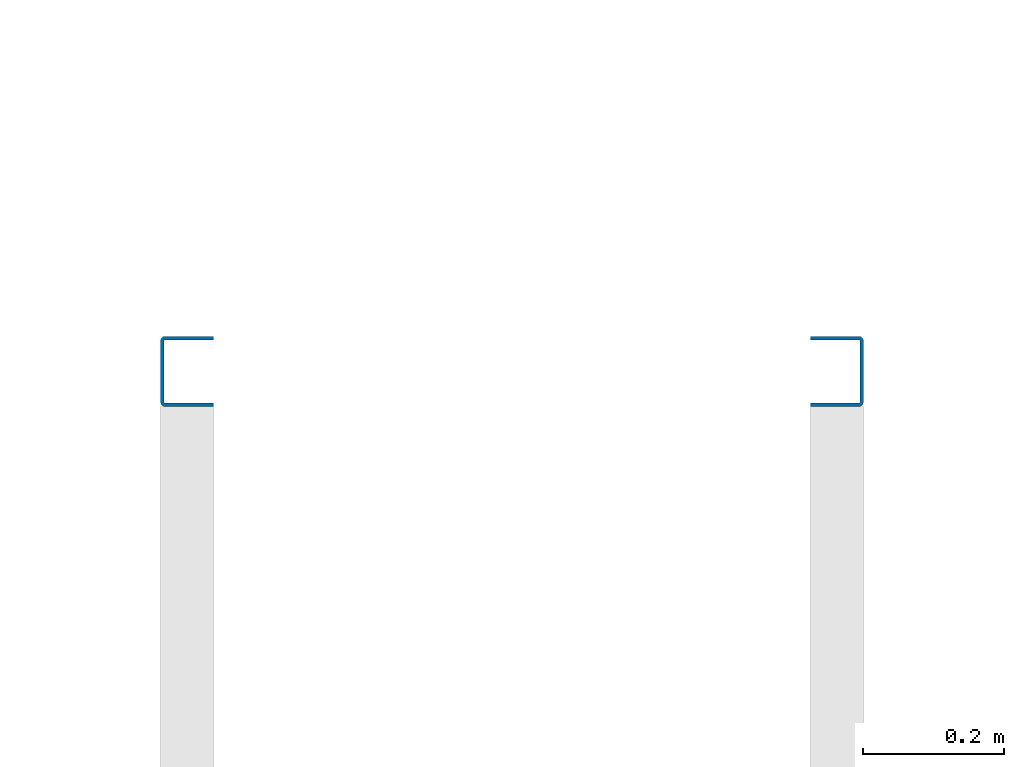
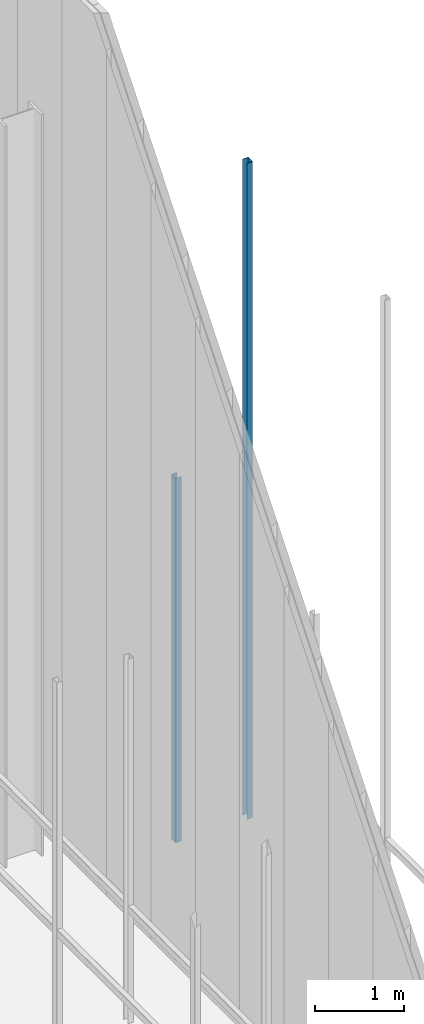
# One storey, part 63 of 302: 2 columns.
"""IFC2X3 building model written with IfcOpenShell, lengths in metres."""

from ifc_helpers import new_model, entity, si_unit, converted_unit, derived_unit, direction, frame, frame_2d, origin, place, context, subcontext, project, spatial, polyline, circle_curve, parameter, trimmed, segment, composite_curve, outline, extrude, source, transform, mapped, material, type_object, type_shapes, element, save


model = new_model("IFC2X3")

# Units and contexts
model_context = context("Model", 3, precision=1e-05, world=origin(), true_north=direction((6.12303176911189e-17, 1.0)))
body_context = subcontext(model_context, "Body", "Model", "MODEL_VIEW")
ifc_project = project(units=[si_unit("LENGTHUNIT", "METRE"), si_unit("AREAUNIT", "SQUARE_METRE"), si_unit("VOLUMEUNIT", "CUBIC_METRE"), converted_unit("PLANEANGLEUNIT", "DEGREE", entity("IfcRatioMeasure", 0.0174532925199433), si_unit("PLANEANGLEUNIT", "RADIAN"), dimensions=[0, 0, 0, 0, 0, 0, 0]), si_unit("MASSUNIT", "GRAM", prefix="KILO"), derived_unit("MASSDENSITYUNIT", [(si_unit("MASSUNIT", "GRAM", prefix="KILO"), 1), (si_unit("LENGTHUNIT", "METRE"), -3)]), derived_unit("MOMENTOFINERTIAUNIT", [(si_unit("LENGTHUNIT", "METRE"), 4)]), si_unit("TIMEUNIT", "SECOND"), si_unit("FREQUENCYUNIT", "HERTZ"), si_unit("THERMODYNAMICTEMPERATUREUNIT", "DEGREE_CELSIUS"), derived_unit("THERMALTRANSMITTANCEUNIT", [(si_unit("MASSUNIT", "GRAM", prefix="KILO"), 1), (si_unit("THERMODYNAMICTEMPERATUREUNIT", "KELVIN"), -1), (si_unit("TIMEUNIT", "SECOND"), -3)]), derived_unit("VOLUMETRICFLOWRATEUNIT", [(si_unit("LENGTHUNIT", "METRE"), 3), (si_unit("TIMEUNIT", "SECOND"), -1)]), si_unit("ELECTRICCURRENTUNIT", "AMPERE"), si_unit("ELECTRICVOLTAGEUNIT", "VOLT"), si_unit("POWERUNIT", "WATT"), si_unit("FORCEUNIT", "NEWTON", prefix="KILO"), si_unit("ILLUMINANCEUNIT", "LUX"), si_unit("LUMINOUSFLUXUNIT", "LUMEN"), si_unit("LUMINOUSINTENSITYUNIT", "CANDELA"), derived_unit("USERDEFINED", [(si_unit("MASSUNIT", "GRAM", prefix="KILO"), -1), (si_unit("LENGTHUNIT", "METRE"), -2), (si_unit("TIMEUNIT", "SECOND"), 3), (si_unit("LUMINOUSFLUXUNIT", "LUMEN"), 1)]), derived_unit("LINEARVELOCITYUNIT", [(si_unit("LENGTHUNIT", "METRE"), 1), (si_unit("TIMEUNIT", "SECOND"), -1)]), si_unit("PRESSUREUNIT", "PASCAL"), derived_unit("USERDEFINED", [(si_unit("LENGTHUNIT", "METRE"), -2), (si_unit("MASSUNIT", "GRAM", prefix="KILO"), 1), (si_unit("TIMEUNIT", "SECOND"), -2)]), derived_unit("LINEARFORCEUNIT", [(si_unit("MASSUNIT", "GRAM", prefix="KILO"), 1), (si_unit("LENGTHUNIT", "METRE"), 1), (si_unit("TIMEUNIT", "SECOND"), -2), (si_unit("LENGTHUNIT", "METRE"), -1)]), derived_unit("PLANARFORCEUNIT", [(si_unit("MASSUNIT", "GRAM", prefix="KILO"), 1), (si_unit("LENGTHUNIT", "METRE"), 1), (si_unit("TIMEUNIT", "SECOND"), -2), (si_unit("LENGTHUNIT", "METRE"), -2)])], contexts=[model_context])

# Site, building, storey
site_placement = place(None, origin())
site = spatial("IfcSite", under=ifc_project, at=site_placement, Name="Default", CompositionType="ELEMENT")
building_placement = place(site_placement, origin())
building = spatial("IfcBuilding", under=site, at=building_placement, CompositionType="ELEMENT")
storey_placement = place(building_placement, frame((0.0, 0.0, -1.3)))
storey = spatial("IfcBuildingStorey", under=building, at=storey_placement, Name="00_EG", CompositionType="ELEMENT", Elevation=-1.3)

# Columns
ifc_material = material(Name="Metall - Baustahl S235")
column_type_1 = type_object("IfcColumnType", Name="Leichter Stahl Schlossschrauben Stütze:C 100", PredefinedType="COLUMN", material=ifc_material)
shared_shape_1 = source(origin(), body_context, "Body", "SweptSolid", [
    extrude(outline(composite_curve([segment(polyline([(-0.0214500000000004, -0.0499999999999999), (0.0469749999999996, -0.0499999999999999)]), True, "CONTINUOUS"), segment(polyline([(0.0469749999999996, -0.0499999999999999), (0.0469749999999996, -0.0449999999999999)]), True, "CONTINUOUS"), segment(polyline([(0.0469749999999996, -0.0449999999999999), (-0.0214500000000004, -0.045)]), True, "CONTINUOUS"), segment(trimmed(circle_curve(frame_2d((-0.0214500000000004, -0.043425), x_axis=(0.0, -1.0)), 0.00157500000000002), [parameter(270.0)], [parameter(0.0)], True, "PARAMETER"), False, "CONTINUOUS"), segment(polyline([(-0.0230250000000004, -0.0434249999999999), (-0.0230250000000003, 0.0434249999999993)]), True, "CONTINUOUS"), segment(trimmed(circle_curve(frame_2d((-0.0214500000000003, 0.0434249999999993), x_axis=(-1.0, 0.0)), 0.00157500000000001), [parameter(269.999999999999)], [parameter(0.0)], True, "PARAMETER"), False, "CONTINUOUS"), segment(polyline([(-0.0214500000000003, 0.0450000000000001), (0.0469750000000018, 0.0450000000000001)]), True, "CONTINUOUS"), segment(polyline([(0.0469750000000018, 0.0450000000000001), (0.0469750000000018, 0.0500000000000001)]), True, "CONTINUOUS"), segment(polyline([(0.0469750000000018, 0.0500000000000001), (-0.0214500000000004, 0.0500000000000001)]), True, "CONTINUOUS"), segment(trimmed(circle_curve(frame_2d((-0.0214500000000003, 0.043425), x_axis=(0.0, 1.0)), 0.0065750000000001), [parameter(0.0)], [parameter(89.9999999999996)], True, "PARAMETER"), True, "CONTINUOUS"), segment(polyline([(-0.0280250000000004, 0.043425), (-0.0280250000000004, -0.043425)]), True, "CONTINUOUS"), segment(trimmed(circle_curve(frame_2d((-0.0214500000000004, -0.0434249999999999), x_axis=(-1.0, 0.0)), 0.00657500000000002), [parameter(0.0)], [parameter(89.9999999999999)], True, "PARAMETER"), True, "CONTINUOUS")], self_intersect=False)), frame((0.0499999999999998, -0.0280250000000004, -0.0300000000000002), z_axis=(0.0, 0.0, 1.0), x_axis=(0.0, -1.0, 0.0)), (0.0, 0.0, 1.0), 9.0),
])
type_shapes(column_type_1, [shared_shape_1])
column_1_placement = place(storey_placement, frame((-175.230111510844, 64.3488562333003, 1.3), z_axis=(0.0, 0.0, 1.0), x_axis=(0.0, -1.0, 0.0)))
element("IfcColumn", 1, at=column_1_placement, inside=storey, type_object=column_type_1, material=ifc_material, Name="Leichter Stahl Schlossschrauben Stütze:C 100", ObjectType="Leichter Stahl Schlossschrauben Stütze:C 100", context=body_context, shape_type="MappedRepresentation", body=[
    mapped(shared_shape_1, transform((0.0, 0.0, 0.0), scale=1.0)),
])
column_type_2 = type_object("IfcColumnType", Name="Leichter Stahl Schlossschrauben Stütze:C 100", PredefinedType="COLUMN", material=ifc_material)
shared_shape_2 = source(origin(), body_context, "Body", "SweptSolid", [
    extrude(outline(composite_curve([segment(polyline([(-0.0469749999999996, -0.0499999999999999), (0.0214500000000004, -0.0499999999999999)]), True, "CONTINUOUS"), segment(trimmed(circle_curve(frame_2d((0.0214500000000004, -0.0434249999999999), x_axis=(0.0, -1.0)), 0.00657500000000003), [parameter(0.0)], [parameter(89.9999999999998)], True, "PARAMETER"), True, "CONTINUOUS"), segment(polyline([(0.0280250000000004, -0.0434249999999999), (0.0280250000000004, 0.0434250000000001)]), True, "CONTINUOUS"), segment(trimmed(circle_curve(frame_2d((0.0214500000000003, 0.0434250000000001), x_axis=(1.0, 0.0)), 0.0065750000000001), [parameter(0.0)], [parameter(89.9999999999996)], True, "PARAMETER"), True, "CONTINUOUS"), segment(polyline([(0.0214500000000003, 0.0500000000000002), (-0.0469750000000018, 0.0500000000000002)]), True, "CONTINUOUS"), segment(polyline([(-0.0469750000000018, 0.0500000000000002), (-0.0469750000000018, 0.0450000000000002)]), True, "CONTINUOUS"), segment(polyline([(-0.0469750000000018, 0.0450000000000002), (0.0214500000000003, 0.0450000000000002)]), True, "CONTINUOUS"), segment(trimmed(circle_curve(frame_2d((0.0214500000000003, 0.0434249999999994), x_axis=(0.0, 1.0)), 0.00157500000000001), [parameter(269.999999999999)], [parameter(0.0)], True, "PARAMETER"), False, "CONTINUOUS"), segment(polyline([(0.0230250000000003, 0.0434249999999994), (0.0230250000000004, -0.0434249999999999)]), True, "CONTINUOUS"), segment(trimmed(circle_curve(frame_2d((0.0214500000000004, -0.0434249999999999), x_axis=(1.0, 0.0)), 0.00157500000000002), [parameter(270.0)], [parameter(0.0)], True, "PARAMETER"), False, "CONTINUOUS"), segment(polyline([(0.0214500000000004, -0.0449999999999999), (-0.0469749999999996, -0.0449999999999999)]), True, "CONTINUOUS"), segment(polyline([(-0.0469749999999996, -0.0449999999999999), (-0.0469749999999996, -0.0499999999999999)]), True, "CONTINUOUS")], self_intersect=False)), frame((0.0499999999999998, 0.0280250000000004, -0.0300000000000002), z_axis=(0.0, 0.0, 1.0), x_axis=(0.0, -1.0, 0.0)), (0.0, 0.0, 1.0), 5.0),
])
type_shapes(column_type_2, [shared_shape_2])
column_2_placement = place(storey_placement, frame((-176.230111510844, 64.3488562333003, 1.3), z_axis=(0.0, 0.0, 1.0), x_axis=(0.0, -1.0, 0.0)))
element("IfcColumn", 2, at=column_2_placement, inside=storey, type_object=column_type_2, material=ifc_material, Name="Leichter Stahl Schlossschrauben Stütze:C 100", ObjectType="Leichter Stahl Schlossschrauben Stütze:C 100", context=body_context, shape_type="MappedRepresentation", body=[
    mapped(shared_shape_2, transform((0.0, 0.0, 0.0), scale=1.0)),
])

save(model, "model.ifc")
